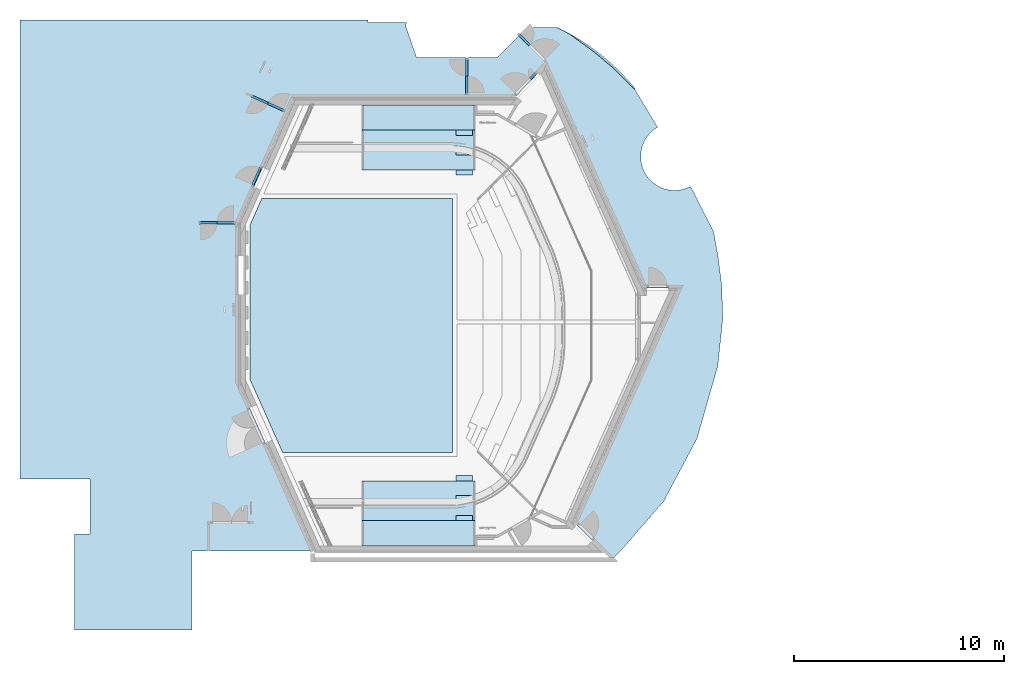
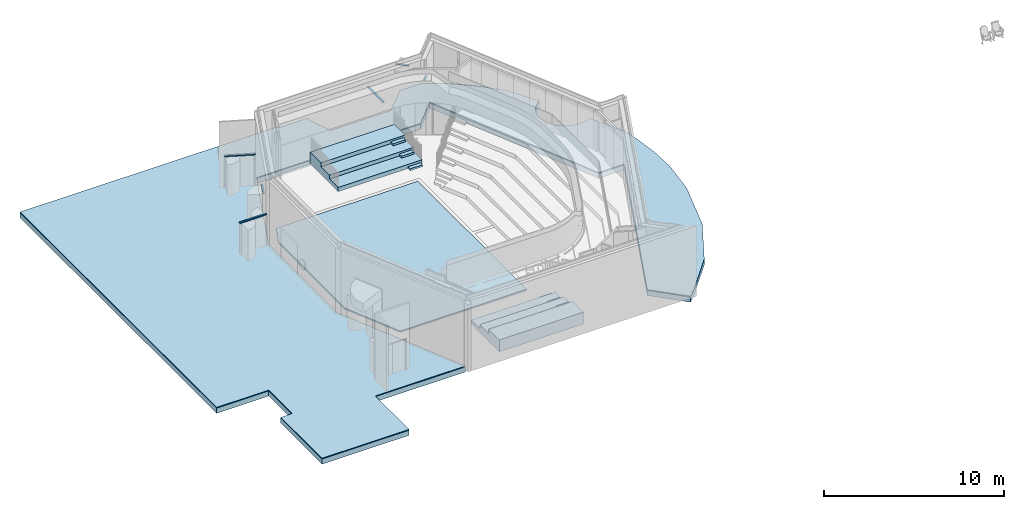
# One storey, part 5 of 19: 9 members, 4 slabs, 6 elements without a shape of their own.
"""IFC2X3 building model written with IfcOpenShell, lengths in millimetres."""

from ifc_helpers import new_model, entity, si_unit, converted_unit, derived_unit, direction, frame, frame_2d, origin, origin_2d_with_axis, place, context, subcontext, project, spatial, polyline, circle_curve, parameter, trimmed, segment, composite_curve, rectangle, outline, extrude, source, transform, mapped, material, layer, layer_set, layer_usage, type_object, type_shapes, element, aggregate, save


model = new_model("IFC2X3")

# Units and contexts
model_context = context("Model", 3, precision=0.01, world=origin(), true_north=direction((6.123031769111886e-17, 1.0)))
body_context = subcontext(model_context, "Body", "Model", "MODEL_VIEW")
ifc_project = project(units=[si_unit("LENGTHUNIT", "METRE", prefix="MILLI"), si_unit("AREAUNIT", "SQUARE_METRE"), si_unit("VOLUMEUNIT", "CUBIC_METRE"), converted_unit("PLANEANGLEUNIT", "DEGREE", entity("IfcRatioMeasure", 0.017453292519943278), si_unit("PLANEANGLEUNIT", "RADIAN"), dimensions=[0, 0, 0, 0, 0, 0, 0]), si_unit("MASSUNIT", "GRAM", prefix="KILO"), derived_unit("MASSDENSITYUNIT", [(si_unit("MASSUNIT", "GRAM", prefix="KILO"), 1), (si_unit("LENGTHUNIT", "METRE"), -3)]), derived_unit("MOMENTOFINERTIAUNIT", [(si_unit("LENGTHUNIT", "METRE"), 4)]), si_unit("TIMEUNIT", "SECOND"), si_unit("FREQUENCYUNIT", "HERTZ"), si_unit("THERMODYNAMICTEMPERATUREUNIT", "DEGREE_CELSIUS"), derived_unit("THERMALTRANSMITTANCEUNIT", [(si_unit("MASSUNIT", "GRAM", prefix="KILO"), 1), (si_unit("THERMODYNAMICTEMPERATUREUNIT", "KELVIN"), -1), (si_unit("TIMEUNIT", "SECOND"), -3)]), derived_unit("VOLUMETRICFLOWRATEUNIT", [(si_unit("LENGTHUNIT", "METRE"), 3), (si_unit("TIMEUNIT", "SECOND"), -1)]), derived_unit("MASSFLOWRATEUNIT", [(si_unit("MASSUNIT", "GRAM", prefix="KILO"), 1), (si_unit("TIMEUNIT", "SECOND"), -1)]), derived_unit("ROTATIONALFREQUENCYUNIT", [(si_unit("TIMEUNIT", "SECOND"), -1)]), si_unit("ELECTRICCURRENTUNIT", "AMPERE"), si_unit("ELECTRICVOLTAGEUNIT", "VOLT"), si_unit("POWERUNIT", "WATT"), si_unit("FORCEUNIT", "NEWTON", prefix="KILO"), si_unit("ILLUMINANCEUNIT", "LUX"), si_unit("LUMINOUSFLUXUNIT", "LUMEN"), si_unit("LUMINOUSINTENSITYUNIT", "CANDELA"), derived_unit("USERDEFINED", [(si_unit("MASSUNIT", "GRAM", prefix="KILO"), -1), (si_unit("LENGTHUNIT", "METRE"), -2), (si_unit("TIMEUNIT", "SECOND"), 3), (si_unit("LUMINOUSFLUXUNIT", "LUMEN"), 1)]), derived_unit("SOUNDPOWERUNIT", [(si_unit("MASSUNIT", "GRAM", prefix="KILO"), 1), (si_unit("LENGTHUNIT", "METRE"), 2), (si_unit("TIMEUNIT", "SECOND"), -3)]), derived_unit("SOUNDPRESSUREUNIT", [(si_unit("MASSUNIT", "GRAM", prefix="KILO"), 1), (si_unit("LENGTHUNIT", "METRE"), -1), (si_unit("TIMEUNIT", "SECOND"), -2)]), derived_unit("LINEARVELOCITYUNIT", [(si_unit("LENGTHUNIT", "METRE"), 1), (si_unit("TIMEUNIT", "SECOND"), -1)]), si_unit("PRESSUREUNIT", "PASCAL"), derived_unit("USERDEFINED", [(si_unit("LENGTHUNIT", "METRE"), -2), (si_unit("MASSUNIT", "GRAM", prefix="KILO"), 1), (si_unit("TIMEUNIT", "SECOND"), -2)]), derived_unit("LINEARFORCEUNIT", [(si_unit("MASSUNIT", "GRAM", prefix="KILO"), 1), (si_unit("LENGTHUNIT", "METRE"), 1), (si_unit("TIMEUNIT", "SECOND"), -2), (si_unit("LENGTHUNIT", "METRE"), -1)]), derived_unit("PLANARFORCEUNIT", [(si_unit("MASSUNIT", "GRAM", prefix="KILO"), 1), (si_unit("LENGTHUNIT", "METRE"), 1), (si_unit("TIMEUNIT", "SECOND"), -2), (si_unit("LENGTHUNIT", "METRE"), -2)])], contexts=[model_context])

# Site, building, storey
site_placement = place(None, frame((-10000.0, -10000.0, 0.0)))
site = spatial("IfcSite", under=ifc_project, at=site_placement, Name="Default", CompositionType="ELEMENT")
building_placement = place(site_placement, origin())
building = spatial("IfcBuilding", under=site, at=building_placement, CompositionType="ELEMENT")
storey_placement = place(building_placement, frame((0.0, 0.0, 4200.0)))
storey = spatial("IfcBuildingStorey", under=building, at=storey_placement, Name="01 1e verdieping", CompositionType="ELEMENT", Elevation=4200.000000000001)

# Curtain wall, member
curtain_wall_type = type_object("IfcCurtainWallType", Name="Curtain Wall:NLRS_32_CWA_houten binnenkozijnen ts90_ags", PredefinedType="NOTDEFINED")
curtain_wall_1_placement = place(storey_placement, frame((0.0, 0.0, -4200.0)))
curtain_wall_1 = element("IfcCurtainWall", 1, at=curtain_wall_1_placement, inside=storey, type_object=curtain_wall_type, Name="Curtain Wall:NLRS_32_CWA_houten binnenkozijnen ts90_ags", ObjectType="Curtain Wall:NLRS_32_CWA_houten binnenkozijnen ts90_ags")
ifc_material_1 = material(Name="<Unnamed>")
member_type_1 = type_object("IfcMemberType", Name="Rectangular Mullion:NLRS_32_CWM_hout 114x67_ags", PredefinedType="MULLION", material=ifc_material_1)
shared_shape_1 = source(origin(), body_context, "Body", "SweptSolid", [
    extrude(rectangle(XDim=114.0, YDim=67.0, at=origin_2d_with_axis()), frame((-33.5, 0.0, -419.7610140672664), z_axis=(0.0, 0.0, 1.0), x_axis=(0.0, -1.0, 0.0)), (0.0, 0.0, 1.0), 419.76101406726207),
])
type_shapes(member_type_1, [shared_shape_1])
member_1_placement = place(curtain_wall_1_placement, frame((39644.82794933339, 50705.055199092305, 6370.0), z_axis=(0.694372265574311, 0.7196159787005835, 0.0), x_axis=(0.0, 0.0, 1.0)))
member_1 = element("IfcMember", 2, at=member_1_placement, type_object=member_type_1, material=ifc_material_1, Name="Rectangular Mullion:NLRS_32_CWM_hout 114x67_ags", ObjectType="Rectangular Mullion:NLRS_32_CWM_hout 114x67_ags", context=body_context, shape_type="MappedRepresentation", body=[
    mapped(shared_shape_1, transform((0.0, 0.0, 0.0), scale=1.0)),
])
aggregate(curtain_wall_1, [member_1])

curtain_wall_2_placement = place(storey_placement, frame((0.0, 0.0, -4200.0)))
curtain_wall_2 = element("IfcCurtainWall", 3, at=curtain_wall_2_placement, inside=storey, type_object=curtain_wall_type, Name="Curtain Wall:NLRS_32_CWA_houten binnenkozijnen ts90_ags", ObjectType="Curtain Wall:NLRS_32_CWA_houten binnenkozijnen ts90_ags")
member_type_2 = type_object("IfcMemberType", Name="Rectangular Mullion:NLRS_32_CWM_hout 114x67_ags", PredefinedType="MULLION", material=ifc_material_1)
shared_shape_2 = source(origin(), body_context, "Body", "SweptSolid", [
    extrude(rectangle(XDim=114.0, YDim=67.0, at=origin_2d_with_axis()), frame((-33.5, 0.0, -906.0), z_axis=(0.0, 0.0, 1.0), x_axis=(0.0, -1.0, 0.0)), (0.0, 0.0, 1.0), 905.9999999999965),
])
type_shapes(member_type_2, [shared_shape_2])
member_2_placement = place(curtain_wall_2_placement, frame((26477.84324104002, 46154.20258416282, 6370.0), z_axis=(0.4067366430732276, 0.9135454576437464, 0.0), x_axis=(0.0, 0.0, 1.0)))
member_2 = element("IfcMember", 4, at=member_2_placement, type_object=member_type_2, material=ifc_material_1, Name="Rectangular Mullion:NLRS_32_CWM_hout 114x67_ags", ObjectType="Rectangular Mullion:NLRS_32_CWM_hout 114x67_ags", context=body_context, shape_type="MappedRepresentation", body=[
    mapped(shared_shape_2, transform((0.0, 0.0, 0.0), scale=1.0)),
])
aggregate(curtain_wall_2, [member_2])

# Curtain wall, members
curtain_wall_3_placement = place(storey_placement, frame((0.0, 0.0, -4200.0)))
curtain_wall_3 = element("IfcCurtainWall", 5, at=curtain_wall_3_placement, inside=storey, type_object=curtain_wall_type, Name="Curtain Wall:NLRS_32_CWA_houten binnenkozijnen ts90_ags", ObjectType="Curtain Wall:NLRS_32_CWA_houten binnenkozijnen ts90_ags")
member_type_3 = type_object("IfcMemberType", Name="Rectangular Mullion:NLRS_32_CWM_hout 114x67_ags", PredefinedType="MULLION", material=ifc_material_1)
shared_shape_3 = source(origin(), body_context, "Body", "SweptSolid", [
    extrude(rectangle(XDim=114.0, YDim=67.0, at=origin_2d_with_axis()), frame((-33.5, 0.0, -875.0), z_axis=(0.0, 0.0, 1.0), x_axis=(0.0, -1.0, 0.0)), (0.0, 0.0, 1.0), 875.0000000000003),
])
type_shapes(member_type_3, [shared_shape_3])
member_3_placement = place(curtain_wall_3_placement, frame((36317.06459566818, 49652.0, 6370.0), z_axis=(0.0, -1.0, 0.0), x_axis=(0.0, 0.0, 1.0)))
member_3 = element("IfcMember", 6, at=member_3_placement, type_object=member_type_3, material=ifc_material_1, Name="Rectangular Mullion:NLRS_32_CWM_hout 114x67_ags", ObjectType="Rectangular Mullion:NLRS_32_CWM_hout 114x67_ags", context=body_context, shape_type="MappedRepresentation", body=[
    mapped(shared_shape_3, transform((0.0, 0.0, 0.0), scale=1.0)),
])
member_type_4 = type_object("IfcMemberType", Name="Rectangular Mullion:NLRS_32_CWM_hout 114x67_ags", PredefinedType="MULLION", material=ifc_material_1)
shared_shape_4 = source(origin(), body_context, "Body", "SweptSolid", [
    extrude(rectangle(XDim=114.0, YDim=67.0, at=origin_2d_with_axis()), frame((-33.5, 0.0, -874.9952493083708), z_axis=(0.0, 0.0, 1.0), x_axis=(0.0, -1.0, 0.0)), (0.0, 0.0, 1.0), 874.9952493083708),
])
type_shapes(member_type_4, [shared_shape_4])
member_4_placement = place(curtain_wall_3_placement, frame((36317.06459566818, 50527.0, 6370.0), z_axis=(0.0, -1.0, 0.0), x_axis=(0.0, 0.0, 1.0)))
member_4 = element("IfcMember", 7, at=member_4_placement, type_object=member_type_4, material=ifc_material_1, Name="Rectangular Mullion:NLRS_32_CWM_hout 114x67_ags", ObjectType="Rectangular Mullion:NLRS_32_CWM_hout 114x67_ags", context=body_context, shape_type="MappedRepresentation", body=[
    mapped(shared_shape_4, transform((0.0, 0.0, 0.0), scale=1.0)),
])
aggregate(curtain_wall_3, [member_3, member_4])

# Curtain wall, member
curtain_wall_4_placement = place(storey_placement, frame((0.0, 0.0, -4200.0)))
curtain_wall_4 = element("IfcCurtainWall", 8, at=curtain_wall_4_placement, inside=storey, type_object=curtain_wall_type, Name="Curtain Wall:NLRS_32_CWA_houten binnenkozijnen ts90_ags", ObjectType="Curtain Wall:NLRS_32_CWA_houten binnenkozijnen ts90_ags")
member_type_5 = type_object("IfcMemberType", Name="Rectangular Mullion:NLRS_32_CWM_hout 114x67_ags", PredefinedType="MULLION", material=ifc_material_1)
shared_shape_5 = source(origin(), body_context, "Body", "SweptSolid", [
    extrude(rectangle(XDim=114.0, YDim=67.0, at=origin_2d_with_axis()), frame((-33.5, 0.0, -867.3225635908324), z_axis=(0.0, 0.0, 1.0), x_axis=(0.0, -1.0, 0.0)), (0.0, 0.0, 1.0), 867.3225635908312),
])
type_shapes(member_type_5, [shared_shape_5])
member_5_placement = place(curtain_wall_4_placement, frame((27625.413582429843, 48871.82759171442, 6370.0), z_axis=(0.9135454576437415, -0.40673664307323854, 0.0), x_axis=(0.0, 0.0, 1.0)))
member_5 = element("IfcMember", 9, at=member_5_placement, type_object=member_type_5, material=ifc_material_1, Name="Rectangular Mullion:NLRS_32_CWM_hout 114x67_ags", ObjectType="Rectangular Mullion:NLRS_32_CWM_hout 114x67_ags", context=body_context, shape_type="MappedRepresentation", body=[
    mapped(shared_shape_5, transform((0.0, 0.0, 0.0), scale=1.0)),
])

curtain_wall_5_placement = place(storey_placement, frame((0.0, 0.0, -4200.0)))
curtain_wall_5 = element("IfcCurtainWall", 10, at=curtain_wall_5_placement, inside=storey, type_object=curtain_wall_type, Name="Curtain Wall:NLRS_32_CWA_houten binnenkozijnen ts90_ags", ObjectType="Curtain Wall:NLRS_32_CWA_houten binnenkozijnen ts90_ags")
member_6_placement = place(curtain_wall_5_placement, frame((25275.0, 43535.712250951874, 6370.0), z_axis=(1.0, 0.0, 0.0), x_axis=(0.0, 0.0, 1.0)))
member_6 = element("IfcMember", 11, at=member_6_placement, type_object=member_type_5, material=ifc_material_1, Name="Rectangular Mullion:NLRS_32_CWM_hout 114x67_ags", ObjectType="Rectangular Mullion:NLRS_32_CWM_hout 114x67_ags", context=body_context, shape_type="MappedRepresentation", body=[
    mapped(shared_shape_5, transform((0.0, 0.0, 0.0), scale=1.0)),
])

# Member
member_type_6 = type_object("IfcMemberType", Name="Rectangular Mullion:NLRS_32_CWM_hout 114x67_ags", PredefinedType="MULLION", material=ifc_material_1)
shared_shape_6 = source(origin(), body_context, "Body", "SweptSolid", [
    extrude(rectangle(XDim=114.0, YDim=67.0, at=origin_2d_with_axis()), frame((-33.5, 0.0, -867.3225635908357), z_axis=(0.0, 0.0, 1.0), x_axis=(0.0, -1.0, 0.0)), (0.0, 0.0, 1.0), 867.3225635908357),
])
type_shapes(member_type_6, [shared_shape_6])
member_7_placement = place(curtain_wall_4_placement, frame((26833.074994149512, 49224.59945969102, 6370.0), z_axis=(0.9135454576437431, -0.40673664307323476, 0.0), x_axis=(0.0, 0.0, 1.0)))
member_7 = element("IfcMember", 12, at=member_7_placement, type_object=member_type_6, material=ifc_material_1, Name="Rectangular Mullion:NLRS_32_CWM_hout 114x67_ags", ObjectType="Rectangular Mullion:NLRS_32_CWM_hout 114x67_ags", context=body_context, shape_type="MappedRepresentation", body=[
    mapped(shared_shape_6, transform((0.0, 0.0, 0.0), scale=1.0)),
])

aggregate(curtain_wall_4, [member_5, member_7])

member_8_placement = place(curtain_wall_5_placement, frame((24407.677436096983, 43535.71225095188, 6370.0), z_axis=(1.0, 0.0, 0.0), x_axis=(0.0, 0.0, 1.0)))
member_8 = element("IfcMember", 13, at=member_8_placement, type_object=member_type_6, material=ifc_material_1, Name="Rectangular Mullion:NLRS_32_CWM_hout 114x67_ags", ObjectType="Rectangular Mullion:NLRS_32_CWM_hout 114x67_ags", context=body_context, shape_type="MappedRepresentation", body=[
    mapped(shared_shape_6, transform((0.0, 0.0, 0.0), scale=1.0)),
])

aggregate(curtain_wall_5, [member_6, member_8])

# Curtain wall, member
curtain_wall_6_placement = place(storey_placement, frame((0.0, 0.0, -4200.0)))
curtain_wall_6 = element("IfcCurtainWall", 14, at=curtain_wall_6_placement, inside=storey, type_object=curtain_wall_type, Name="Curtain Wall:NLRS_32_CWA_houten binnenkozijnen ts90_ags", ObjectType="Curtain Wall:NLRS_32_CWA_houten binnenkozijnen ts90_ags")
member_type_7 = type_object("IfcMemberType", Name="Rectangular Mullion:NLRS_32_CWM_hout 114x67_ags", PredefinedType="MULLION", material=ifc_material_1)
shared_shape_7 = source(origin(), body_context, "Body", "SweptSolid", [
    extrude(rectangle(XDim=114.0, YDim=67.0, at=origin_2d_with_axis()), frame((-33.5, 0.0, -770.0), z_axis=(0.0, 0.0, 1.0), x_axis=(0.0, -1.0, 0.0)), (0.0, 0.0, 1.0), 770.0000000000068),
])
type_shapes(member_type_7, [shared_shape_7])
member_9_placement = place(curtain_wall_6_placement, frame((39306.723434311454, 52009.408202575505, 6370.0), z_axis=(0.7071067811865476, -0.7071067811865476, 0.0), x_axis=(0.0, 0.0, 1.0)))
member_9 = element("IfcMember", 15, at=member_9_placement, type_object=member_type_7, material=ifc_material_1, Name="Rectangular Mullion:NLRS_32_CWM_hout 114x67_ags", ObjectType="Rectangular Mullion:NLRS_32_CWM_hout 114x67_ags", context=body_context, shape_type="MappedRepresentation", body=[
    mapped(shared_shape_7, transform((0.0, 0.0, 0.0), scale=1.0)),
])
aggregate(curtain_wall_6, [member_9])

# Slabs
ifc_material_2 = material(Name="NLRS_beton ihwg")
ifc_layer_1 = layer(ifc_material_2, 350.0)
ifc_layer_set_1 = layer_set([ifc_layer_1], Name="Floor:NLRS_23_FL_beton 350mm_ags")
ifc_layer_usage_1 = layer_usage(ifc_layer_set_1, "AXIS3", "POSITIVE", 0.0)
slab_type_1 = type_object("IfcSlabType", Name="Floor:NLRS_23_FL_beton 350mm_ags", PredefinedType="FLOOR", material=ifc_layer_set_1)
slab_1_placement = place(storey_placement, origin())
element("IfcSlab", 16, at=slab_1_placement, inside=storey, type_object=slab_type_1, material=ifc_layer_usage_1, Name="Floor:NLRS_23_FL_beton 350mm_ags", ObjectType="Floor:NLRS_23_FL_beton 350mm_ags", PredefinedType="FLOOR", context=body_context, shape_type="SweptSolid", body=[
    extrude(outline(composite_curve([segment(polyline([(-9495.18027754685, -20566.807758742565), (12384.880789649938, -20566.80775874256)]), True, "CONTINUOUS"), segment(polyline([(12384.880789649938, -20566.80775874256), (12384.880789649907, -3978.4752681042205)]), True, "CONTINUOUS"), segment(polyline([(12384.880789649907, -3978.4752681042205), (12270.02984544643, -3978.4752681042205)]), True, "CONTINUOUS"), segment(polyline([(12270.02984544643, -3978.4752681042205), (12270.029845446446, -2149.1547608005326)]), True, "CONTINUOUS"), segment(trimmed(circle_curve(frame_2d((11907.836870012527, 22341.705396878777), x_axis=(0.01478728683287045, -0.9998906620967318)), 24493.538229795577), [parameter(359.41012805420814)], [parameter(0.0)], True, "PARAMETER"), False, "CONTINUOUS"), segment(polyline([(12017.876614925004, -2151.5856492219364), (10596.987057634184, -1655.4054070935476)]), True, "CONTINUOUS"), segment(polyline([(10596.987057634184, -1655.4054070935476), (10596.987057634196, 2189.48644286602)]), True, "CONTINUOUS"), segment(polyline([(10596.987057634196, 2189.48644286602), (12030.292503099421, 3622.791888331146)]), True, "CONTINUOUS"), segment(polyline([(12030.292503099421, 3622.791888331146), (12030.292503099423, 5065.705250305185)]), True, "CONTINUOUS"), segment(trimmed(circle_curve(frame_2d((2210.893641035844, 318.9046726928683), x_axis=(0.9003217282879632, 0.43522498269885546)), 10906.544353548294), [parameter(0.0)], [parameter(25.05943168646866)], True, "PARAMETER"), True, "CONTINUOUS"), segment(polyline([(9095.435982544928, 8777.97001609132), (9078.479332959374, 8749.127771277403)]), True, "CONTINUOUS"), segment(polyline([(9078.479332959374, 8749.127771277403), (7268.91389624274, 9835.036505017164)]), True, "CONTINUOUS"), segment(trimmed(circle_curve(frame_2d((5873.548240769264, 10645.857687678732), x_axis=(0.8646250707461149, -0.5024176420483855)), 1613.8389952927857), [parameter(182.0451434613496)], [parameter(0.0)], True, "PARAMETER"), False, "CONTINUOUS"), segment(polyline([(4450.135705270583, 11406.366107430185), (2290.76635744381, 12506.739435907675)]), True, "CONTINUOUS"), segment(polyline([(2290.76635744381, 12506.739435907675), (1069.532319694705, 12722.07594652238)]), True, "CONTINUOUS"), segment(polyline([(1069.532319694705, 12722.07594652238), (-247.14018236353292, 12891.139298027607)]), True, "CONTINUOUS"), segment(polyline([(-247.14018236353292, 12891.139298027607), (-1822.787801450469, 12946.162125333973)]), True, "CONTINUOUS"), segment(polyline([(-1822.787801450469, 12946.162125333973), (-4119.551812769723, 12704.762500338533)]), True, "CONTINUOUS"), segment(polyline([(-4119.551812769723, 12704.762500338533), (-7580.093918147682, 11712.46801939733)]), True, "CONTINUOUS"), segment(polyline([(-7580.093918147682, 11712.46801939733), (-10566.398723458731, 10124.621588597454)]), True, "CONTINUOUS"), segment(polyline([(-10566.398723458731, 10124.621588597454), (-12739.919081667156, 8240.465336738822)]), True, "CONTINUOUS"), segment(polyline([(-12739.919081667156, 8240.465336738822), (-13343.79440248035, 7636.590015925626)]), True, "CONTINUOUS"), segment(polyline([(-13343.79440248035, 7636.590015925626), (-11579.18436968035, 5871.979983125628)]), True, "CONTINUOUS"), segment(polyline([(-11579.18436968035, 5871.979983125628), (-397.14018236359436, 10848.977177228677)]), True, "CONTINUOUS"), segment(polyline([(-397.14018236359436, 10848.977177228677), (-397.14018236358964, 9206.716010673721)]), True, "CONTINUOUS"), segment(polyline([(-397.14018236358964, 9206.716010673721), (10206.639925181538, 4485.608934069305)]), True, "CONTINUOUS"), segment(polyline([(10206.639925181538, 4485.608934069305), (8686.880789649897, 3019.1620717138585)]), True, "CONTINUOUS"), segment(polyline([(8686.880789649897, 3019.162071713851), (8686.880789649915, -7508.384127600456)]), True, "CONTINUOUS"), segment(polyline([(8686.880789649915, -7508.384127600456), (2745.70955635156, -10153.563984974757)]), True, "CONTINUOUS"), segment(polyline([(2745.70955635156, -10153.563984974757), (-4883.132514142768, -10153.56398497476)]), True, "CONTINUOUS"), segment(polyline([(-4883.132514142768, -10153.56398497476), (-12940.11921065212, -6566.362390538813)]), True, "CONTINUOUS"), segment(polyline([(-12940.11921065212, -6566.362390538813), (-12940.119210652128, -12374.138675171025)]), True, "CONTINUOUS"), segment(polyline([(-12940.119210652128, -12374.138675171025), (-16695.97007045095, -12374.138675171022)]), True, "CONTINUOUS"), segment(polyline([(-16695.97007045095, -12374.138675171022), (-16695.97007045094, -17966.736599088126)]), True, "CONTINUOUS"), segment(polyline([(-16695.97007045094, -17966.736599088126), (-12111.404686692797, -17966.73659908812)]), True, "CONTINUOUS"), segment(polyline([(-12111.404686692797, -17966.73659908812), (-12111.404686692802, -17226.807758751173)]), True, "CONTINUOUS"), segment(polyline([(-12111.404686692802, -17226.807758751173), (-9495.180277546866, -17226.807758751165)]), True, "CONTINUOUS"), segment(polyline([(-9495.180277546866, -17226.807758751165), (-9495.18027754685, -20566.807758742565)]), True, "CONTINUOUS")], self_intersect=False)), frame((35578.5639846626, 40815.119210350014, -50.0), z_axis=(0.0, 0.0, -1.0), x_axis=(0.0, 1.0, 0.0)), (0.0, 0.0, 1.0), 350.0),
])
ifc_material_3 = material(Name="Hout - Keroewing")
ifc_layer_2 = layer(ifc_material_3, 22.0)
ifc_material_4 = material(Name="Regelwerk")
ifc_layer_3 = layer(ifc_material_4, 65.0)
ifc_material_5 = material(Name="Default")
ifc_layer_4 = layer(ifc_material_5, 10.0)
ifc_layer_set_2 = layer_set([ifc_layer_2, ifc_layer_3, ifc_layer_4], Name="Floor:NLRS_43_FL_parketvloer zaal 97mm_ags")
ifc_layer_usage_2 = layer_usage(ifc_layer_set_2, "AXIS3", "POSITIVE", 0.0)
slab_type_2 = type_object("IfcSlabType", Name="Floor:NLRS_43_FL_parketvloer zaal 97mm_ags", PredefinedType="FLOOR", material=ifc_layer_set_2)
slab_2_placement = place(storey_placement, frame((25985.0, 28125.0, -72.0)))
element("IfcSlab", 17, at=slab_2_placement, inside=storey, type_object=slab_type_2, material=ifc_layer_usage_2, Name="Floor:NLRS_43_FL_parketvloer zaal 97mm_ags:2", ObjectType="Floor:NLRS_43_FL_parketvloer zaal 97mm_ags", PredefinedType="FLOOR", context=body_context, shape_type="SweptSolid", body=[
    extrude(outline(polyline([(-415.0, 6050.0), (-415.0, -6050.0), (7703.387497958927, -6050.0), (9245.0, -2587.481629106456), (9245.0, 4803.297092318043), (8689.932103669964, 6050.0), (-415.0, 6050.0)])), frame((9245.0, 10513.50000015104, 97.0), z_axis=(0.0, 0.0, -1.0), x_axis=(-1.0, 0.0, 0.0)), (0.0, 0.0, 1.0), 97.00000000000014),
])
ifc_material_6 = material(Name="20_APX_ontwerpmateriaal grijs")
slab_type_3 = type_object("IfcSlabType", Name="Tribune zijkanten:Tribune zijkanten", PredefinedType="FLOOR", material=ifc_material_6)
slab_3_placement = place(storey_placement, origin())
element("IfcSlab", 18, at=slab_3_placement, inside=storey, type_object=slab_type_3, Name="Tribune zijkanten:Tribune zijkanten", ObjectType="Tribune zijkanten:Tribune zijkanten", PredefinedType="FLOOR", context=body_context, shape_type="SweptSolid", body=[
    extrude(rectangle(XDim=800.0, YDim=249.99999999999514, at=frame_2d((2.1600499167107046e-12, 0.0), x_axis=(1.0, 0.0))), frame((36190.0, 31350.0, 0.0), z_axis=(0.0, 0.0, 1.0), x_axis=(-1.0, 0.0, 0.0)), (0.0, 0.0, 1.0), 130.00000000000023),
    extrude(rectangle(XDim=799.9999999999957, YDim=249.9999999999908, at=frame_2d((4.348521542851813e-12, 0.0), x_axis=(1.0, 0.0))), frame((36190.0, 30400.0, 285.0), z_axis=(0.0, 0.0, 1.0), x_axis=(-1.0, 0.0, 0.0)), (0.0, 0.0, 1.0), 130.00000000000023),
    extrude(rectangle(XDim=800.0, YDim=249.9999999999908, at=frame_2d((-2.1600499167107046e-12, 0.0), x_axis=(1.0, 0.0))), frame((36190.0, 29450.0, 545.0), z_axis=(0.0, 0.0, 1.0), x_axis=(-1.0, 0.0, 0.0)), (0.0, 0.0, 1.0), 130.00000000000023),
    extrude(rectangle(XDim=5400.0000000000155, YDim=949.9999999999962, at=frame_2d((2.0463630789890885e-12, 0.0), x_axis=(1.0, 0.0))), frame((34010.0, 30750.0, 0.0), z_axis=(0.0, 0.0, 1.0), x_axis=(-1.0, 0.0, 0.0)), (0.0, 0.0, 1.0), 285.00000000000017),
    extrude(rectangle(XDim=5399.999999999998, YDim=949.9999999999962, at=frame_2d((2.0463630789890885e-12, 4.320099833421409e-12), x_axis=(1.0, 0.0))), frame((34010.0, 29800.0, 0.0), z_axis=(0.0, 0.0, 1.0), x_axis=(-1.0, 0.0, 0.0)), (0.0, 0.0, 1.0), 545.0000000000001),
    extrude(rectangle(XDim=5399.999999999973, YDim=1200.0, at=origin_2d_with_axis()), frame((34010.0, 28725.0, 0.0), z_axis=(0.0, 0.0, 1.0), x_axis=(-1.0, 0.0, 0.0)), (0.0, 0.0, 1.0), 805.0000000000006),
    extrude(outline(polyline([(123.75000000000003, -1487.4999999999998), (408.7500000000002, -1487.4999999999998), (408.7500000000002, 1612.4999999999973), (-396.25000000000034, 1612.4999999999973), (-396.25000000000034, 412.50000000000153), (-136.2499999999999, 412.50000000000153), (-136.2499999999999, -537.4999999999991), (123.75000000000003, -537.4999999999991), (123.75000000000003, -1487.4999999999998)])), frame((31310.0, 47539.4999996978, 408.7500000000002), z_axis=(1.0, 0.0, 0.0), x_axis=(0.0, 0.0, -1.0)), (0.0, 0.0, 1.0), 5400.000000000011),
    extrude(rectangle(XDim=250.0000000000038, YDim=800.0, at=frame_2d((0.0, -2.1884716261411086e-12), x_axis=(1.0, 0.0))), frame((36190.0, 45927.0, 0.0), z_axis=(0.0, 0.0, 1.0), x_axis=(0.0, 1.0, 0.0)), (0.0, 0.0, 1.0), 130.00000000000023),
    extrude(rectangle(XDim=249.99999999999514, YDim=800.0, at=frame_2d((0.0, -2.1884716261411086e-12), x_axis=(1.0, 0.0))), frame((36190.0, 46877.0, 285.0), z_axis=(0.0, 0.0, 1.0), x_axis=(0.0, 1.0, 0.0)), (0.0, 0.0, 1.0), 130.00000000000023),
    extrude(rectangle(XDim=249.99999999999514, YDim=800.0000000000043, at=frame_2d((0.0, 4.348521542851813e-12), x_axis=(1.0, 0.0))), frame((36190.0, 47827.0, 545.0), z_axis=(0.0, 0.0, 1.0), x_axis=(0.0, 1.0, 0.0)), (0.0, 0.0, 1.0), 130.00000000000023),
])
ifc_material_7 = material(Name="NLRS_dekvloer")
ifc_layer_5 = layer(ifc_material_7, 50.0)
ifc_layer_set_3 = layer_set([ifc_layer_5], Name="Floor:NLRS_43_FL_dekvloer 50mm_ags")
ifc_layer_usage_3 = layer_usage(ifc_layer_set_3, "AXIS3", "POSITIVE", 0.0)
slab_type_4 = type_object("IfcSlabType", Name="Floor:NLRS_43_FL_dekvloer 50mm_ags", PredefinedType="FLOOR", material=ifc_layer_set_3)
slab_4_placement = place(storey_placement, origin())
element("IfcSlab", 19, at=slab_4_placement, inside=storey, type_object=slab_type_4, material=ifc_layer_usage_3, Name="Floor:NLRS_43_FL_dekvloer 50mm_ags", ObjectType="Floor:NLRS_43_FL_dekvloer 50mm_ags", PredefinedType="FLOOR", context=body_context, shape_type="SweptSolid", body=[
    extrude(outline(composite_curve([segment(polyline([(-10084.306835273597, -20851.2330367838), (11795.75423192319, -20851.233036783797)]), True, "CONTINUOUS"), segment(polyline([(11795.75423192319, -20851.233036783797), (11795.754231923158, -4262.900546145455)]), True, "CONTINUOUS"), segment(polyline([(11795.754231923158, -4262.900546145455), (11680.90328771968, -4262.900546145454)]), True, "CONTINUOUS"), segment(polyline([(11680.90328771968, -4262.900546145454), (11680.903287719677, -2433.5800388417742)]), True, "CONTINUOUS"), segment(polyline([(11680.903287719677, -2433.5800388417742), (11428.750057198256, -2436.0109272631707)]), True, "CONTINUOUS"), segment(polyline([(11428.750057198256, -2436.0109272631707), (10007.860499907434, -1939.8306851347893)]), True, "CONTINUOUS"), segment(polyline([(10007.860499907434, -1939.8306851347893), (10007.860499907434, 1905.0611648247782)]), True, "CONTINUOUS"), segment(polyline([(10007.860499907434, 1905.0611648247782), (11441.165945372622, 3338.3666102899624)]), True, "CONTINUOUS"), segment(polyline([(11441.165945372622, 3338.3666102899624), (11441.16594537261, 4759.508008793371)]), True, "CONTINUOUS"), segment(polyline([(11441.16594537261, 4759.508008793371), (11137.670198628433, 5336.751265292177)]), True, "CONTINUOUS"), segment(polyline([(11137.670198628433, 5336.751265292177), (10285.381582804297, 6509.825907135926)]), True, "CONTINUOUS"), segment(polyline([(10285.381582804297, 6509.825907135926), (9475.469194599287, 7475.0419054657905)]), True, "CONTINUOUS"), segment(polyline([(9475.469194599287, 7475.0419054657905), (8483.950417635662, 8466.560682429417)]), True, "CONTINUOUS"), segment(polyline([(8483.950417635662, 8466.560682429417), (6679.787338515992, 9550.611226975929)]), True, "CONTINUOUS"), segment(trimmed(circle_curve(frame_2d((5284.421683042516, 10361.432409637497), x_axis=(0.8646250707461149, -0.5024176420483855)), 1613.8389952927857), [parameter(182.0451434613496)], [parameter(0.0)], True, "PARAMETER"), False, "CONTINUOUS"), segment(polyline([(3861.0091475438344, 11121.940829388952), (1701.6397997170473, 12222.314157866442)]), True, "CONTINUOUS"), segment(polyline([(1701.6397997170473, 12222.314157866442), (480.40576196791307, 12437.650668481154)]), True, "CONTINUOUS"), segment(polyline([(480.40576196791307, 12437.650668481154), (-836.2667400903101, 12606.714019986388)]), True, "CONTINUOUS"), segment(polyline([(-836.2667400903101, 12606.714019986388), (-2411.914359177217, 12661.736847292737)]), True, "CONTINUOUS"), segment(polyline([(-2411.914359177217, 12661.736847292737), (-4708.678370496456, 12420.337222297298)]), True, "CONTINUOUS"), segment(polyline([(-4708.678370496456, 12420.337222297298), (-8169.22047587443, 11428.042741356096)]), True, "CONTINUOUS"), segment(polyline([(-8169.22047587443, 11428.042741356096), (-11155.525281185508, 9840.196310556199)]), True, "CONTINUOUS"), segment(polyline([(-11155.525281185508, 9840.196310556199), (-13329.045639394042, 7956.040058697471)]), True, "CONTINUOUS"), segment(polyline([(-13329.045639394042, 7956.040058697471), (-13932.920960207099, 7352.164737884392)]), True, "CONTINUOUS"), segment(polyline([(-13932.920960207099, 7352.164737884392), (-12168.310927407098, 5587.554705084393)]), True, "CONTINUOUS"), segment(polyline([(-12168.310927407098, 5587.554705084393), (-986.2667400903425, 10564.551899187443)]), True, "CONTINUOUS"), segment(polyline([(-986.2667400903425, 10564.551899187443), (-986.2667400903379, 8922.290732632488)]), True, "CONTINUOUS"), segment(polyline([(-986.2667400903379, 8922.290732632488), (9617.513367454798, 4201.183656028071)]), True, "CONTINUOUS"), segment(polyline([(9617.513367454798, 4201.183656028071), (8097.754231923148, 2734.736793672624)]), True, "CONTINUOUS"), segment(polyline([(8097.754231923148, 2734.736793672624), (8097.754231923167, -7792.80940564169)]), True, "CONTINUOUS"), segment(polyline([(8097.754231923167, -7792.80940564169), (2156.582998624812, -10437.989263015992)]), True, "CONTINUOUS"), segment(polyline([(2156.582998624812, -10437.989263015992), (-5472.25907186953, -10437.989263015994)]), True, "CONTINUOUS"), segment(polyline([(-5472.25907186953, -10437.989263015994), (-13529.245768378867, -6850.7876685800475)]), True, "CONTINUOUS"), segment(polyline([(-13529.245768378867, -6850.7876685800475), (-13529.245768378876, -12658.563953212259)]), True, "CONTINUOUS"), segment(polyline([(-13529.245768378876, -12658.563953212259), (-17285.0966281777, -12658.563953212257)]), True, "CONTINUOUS"), segment(polyline([(-17285.0966281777, -12658.563953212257), (-17285.09662817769, -18251.161877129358)]), True, "CONTINUOUS"), segment(polyline([(-17285.09662817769, -18251.161877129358), (-12700.531244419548, -18251.16187712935)]), True, "CONTINUOUS"), segment(polyline([(-12700.531244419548, -18251.16187712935), (-12700.53124441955, -17511.233036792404)]), True, "CONTINUOUS"), segment(polyline([(-12700.53124441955, -17511.233036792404), (-10084.306835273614, -17511.2330367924)]), True, "CONTINUOUS"), segment(polyline([(-10084.306835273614, -17511.2330367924), (-10084.306835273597, -20851.2330367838)]), True, "CONTINUOUS")], self_intersect=False)), frame((35862.989262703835, 41404.24576807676, 0.0), z_axis=(0.0, 0.0, -1.0), x_axis=(0.0, 1.0, 0.0)), (0.0, 0.0, 1.0), 50.0),
])

save(model, "model.ifc")
